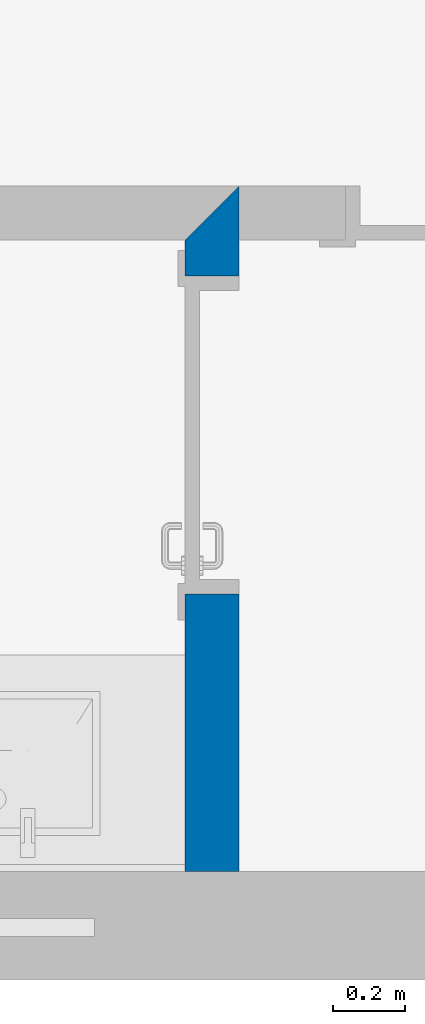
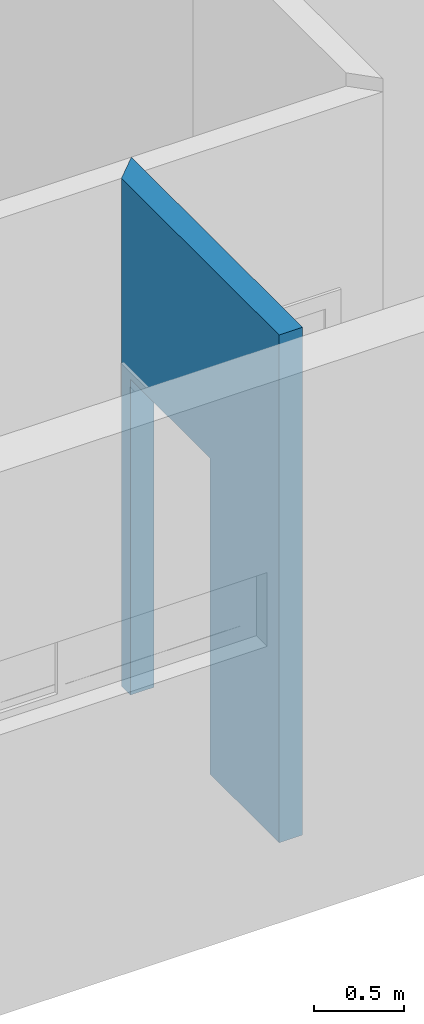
# One storey, part 2 of 26: 1 wall, 1 opening.
"""IFC2X3 building model written with IfcOpenShell, lengths in millimetres."""

from ifc_helpers import new_model, entity, si_unit, converted_unit, money_unit, direction, frame, origin_with_axes, origin_2d_with_axis, place, context, subcontext, project, spatial, polyline, rectangle, outline, extrude, material, layer, layer_set, layer_usage, type_object, element, save


model = new_model("IFC2X3")

# Units and contexts
model_context = context("Model", 3, precision=1e-05, world=origin_with_axes(), true_north=direction((0.0, 1.0)))
body_context = subcontext(model_context, "Body", "Model", "MODEL_VIEW")
ifc_project = project(units=[si_unit("LENGTHUNIT", "METRE", prefix="MILLI"), si_unit("AREAUNIT", "SQUARE_METRE"), si_unit("VOLUMEUNIT", "CUBIC_METRE"), converted_unit("PLANEANGLEUNIT", "DEGREE", entity("IfcPlaneAngleMeasure", 0.0174532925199), si_unit("PLANEANGLEUNIT", "RADIAN"), dimensions=[0, 0, 0, 0, 0, 0, 0]), si_unit("SOLIDANGLEUNIT", "STERADIAN"), money_unit("USD"), converted_unit("TIMEUNIT", "Year", entity("IfcTimeMeasure", 31556926.0), si_unit("TIMEUNIT", "SECOND"), dimensions=[0, 0, 0, 0, 0, 0, 0]), si_unit("MASSUNIT", "GRAM"), si_unit("THERMODYNAMICTEMPERATUREUNIT", "DEGREE_CELSIUS"), si_unit("LUMINOUSINTENSITYUNIT", "LUMEN")], contexts=[model_context])

# Site, building, storey
site_placement = place(None, origin_with_axes())
site = spatial("IfcSite", under=ifc_project, at=site_placement, Name="Grove Residential", CompositionType="ELEMENT")
building_placement = place(site_placement, origin_with_axes())
building = spatial("IfcBuilding", under=site, at=building_placement, Name="Building", CompositionType="ELEMENT")
storey_placement = place(building_placement, origin_with_axes())
storey = spatial("IfcBuildingStorey", under=building, at=storey_placement, Name="Ground Floor", CompositionType="ELEMENT", Elevation=0.0)

# Wall, opening
ifc_material_1 = material(Name="Wall Tiles")
ifc_layer_1 = layer(ifc_material_1, 12.5, ventilated="UNKNOWN")
ifc_material_2 = material(Name="Gypsum Plasterboard - Waterproof")
ifc_layer_2 = layer(ifc_material_2, 12.5, ventilated="UNKNOWN")
ifc_material_3 = material(Name="Air Space - Frame")
ifc_layer_3 = layer(ifc_material_3, 50.0, ventilated="UNKNOWN")
ifc_material_4 = material(Name="Insulation - Mineral Soft")
ifc_layer_4 = layer(ifc_material_4, 50.0, ventilated="UNKNOWN")
ifc_material_5 = material(Name="Gypsum Plasterboard")
ifc_layer_5 = layer(ifc_material_5, 12.5, ventilated="UNKNOWN")
ifc_layer_6 = layer(ifc_material_5, 12.5, ventilated="UNKNOWN")
ifc_layer_set = layer_set([ifc_layer_1, ifc_layer_2, ifc_layer_3, ifc_layer_4, ifc_layer_5, ifc_layer_6], Name="IWF-002")
ifc_layer_usage = layer_usage(ifc_layer_set, "AXIS2", "NEGATIVE", 0.0)
wall_type = type_object("IfcWallType", Name="IWF-002 150", PredefinedType="NOTDEFINED")
wall_placement = place(storey_placement, frame((5550.0, -35.0, 0.0), z_axis=(0.0, 0.0, 1.0), x_axis=(0.0, 1.0, 0.0)))
wall = element("IfcWallStandardCase", 1, at=wall_placement, inside=storey, type_object=wall_type, material=ifc_layer_usage, Name="SW - 001", context=body_context, shape_type="SweptSolid", body=[
    extrude(outline(polyline([(185.0, -150.0), (2085.0, -150.0), (1935.0, 0.0), (185.0, 0.0), (185.0, -150.0)])), origin_with_axes(), (0.0, 0.0, 1.0), 3440.0),
])
opening_placement = place(wall_placement, frame((1395.0, 0.0, 0.0), z_axis=(0.0, 0.0, 1.0), x_axis=(1.0, 0.0, 0.0)))
element("IfcOpeningElement", 2, at=opening_placement, cuts=wall, Name="D.01", context=body_context, shape_type="SweptSolid", body=[
    extrude(rectangle(XDim=880.0, YDim=2140.0, at=origin_2d_with_axis()), frame((0.0, 150.0, 1070.0), z_axis=(0.0, -1.0, 0.0), x_axis=(1.0, 0.0, 0.0)), (0.0, 0.0, 1.0), 450.0),
    extrude(rectangle(XDim=1024.0, YDim=2212.0, at=origin_2d_with_axis()), frame((0.0, 0.0, 1106.0), z_axis=(0.0, -1.0, 0.0), x_axis=(1.0, 0.0, 0.0)), (0.0, 0.0, -1.0), 150.0),
])

save(model, "model.ifc")
